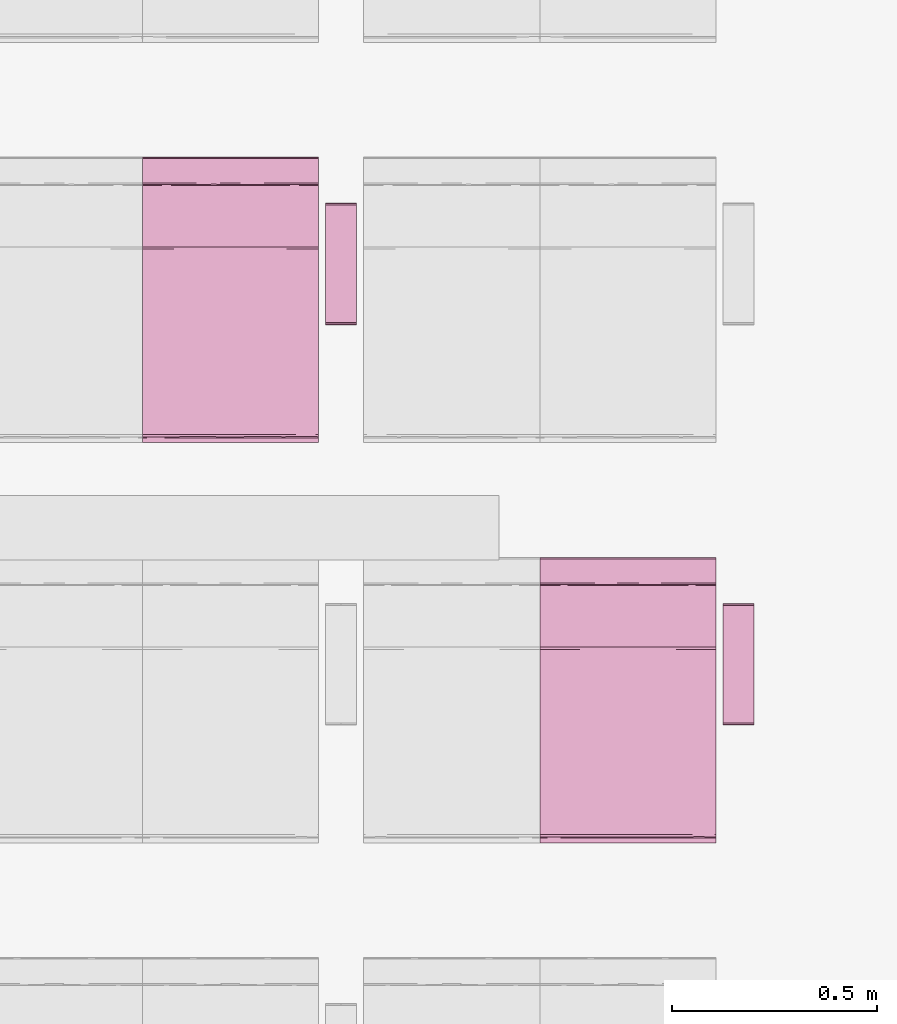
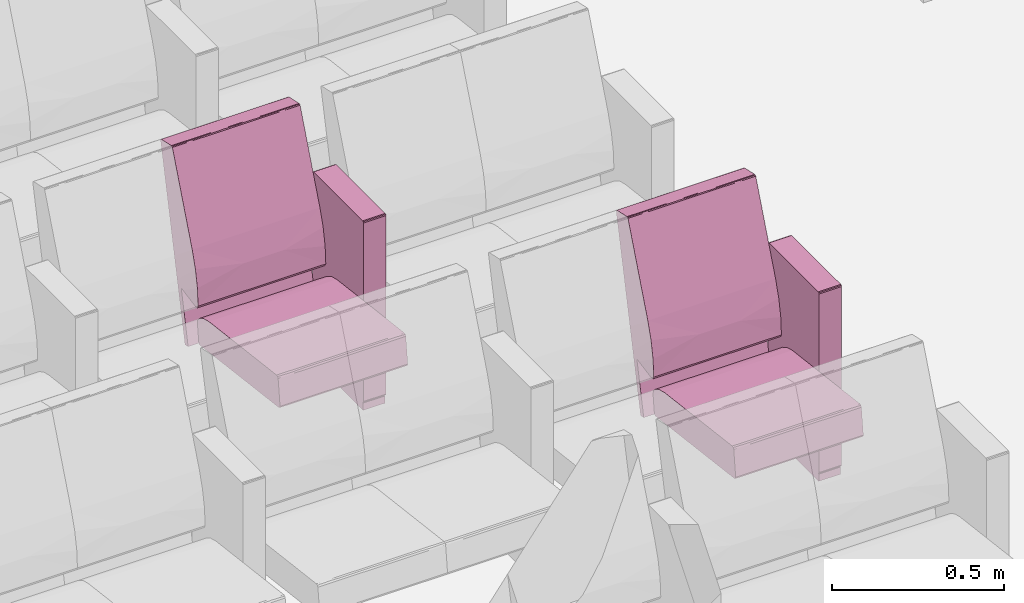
# One storey, part 110 of 155: 2 furnishings.
"""IFC2X3 building model written with IfcOpenShell, lengths in metres."""

from ifc_helpers import new_model, entity, si_unit, converted_unit, derived_unit, direction, frame, origin, place, context, subcontext, project, spatial, faceted_brep, source, transform, mapped, material, material_list, type_object, type_shapes, element, save


model = new_model("IFC2X3")

# Units and contexts
model_context = context("Model", 3, precision=1e-05, world=origin(), true_north=direction((6.12303176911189e-17, 1.0)))
body_context = subcontext(model_context, "Body", "Model", "MODEL_VIEW")
ifc_project = project(units=[si_unit("LENGTHUNIT", "METRE"), si_unit("AREAUNIT", "SQUARE_METRE"), si_unit("VOLUMEUNIT", "CUBIC_METRE"), converted_unit("PLANEANGLEUNIT", "DEGREE", entity("IfcRatioMeasure", 0.0174532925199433), si_unit("PLANEANGLEUNIT", "RADIAN"), dimensions=[0, 0, 0, 0, 0, 0, 0]), si_unit("MASSUNIT", "GRAM", prefix="KILO"), derived_unit("MASSDENSITYUNIT", [(si_unit("MASSUNIT", "GRAM", prefix="KILO"), 1), (si_unit("LENGTHUNIT", "METRE"), -3)]), si_unit("TIMEUNIT", "SECOND"), si_unit("FREQUENCYUNIT", "HERTZ"), si_unit("THERMODYNAMICTEMPERATUREUNIT", "DEGREE_CELSIUS"), derived_unit("THERMALTRANSMITTANCEUNIT", [(si_unit("MASSUNIT", "GRAM", prefix="KILO"), 1), (si_unit("THERMODYNAMICTEMPERATUREUNIT", "KELVIN"), -1), (si_unit("TIMEUNIT", "SECOND"), -3)]), derived_unit("VOLUMETRICFLOWRATEUNIT", [(si_unit("LENGTHUNIT", "METRE"), 3), (si_unit("TIMEUNIT", "SECOND"), -1)]), si_unit("ELECTRICCURRENTUNIT", "AMPERE"), si_unit("ELECTRICVOLTAGEUNIT", "VOLT"), si_unit("POWERUNIT", "WATT"), si_unit("FORCEUNIT", "NEWTON", prefix="KILO"), si_unit("ILLUMINANCEUNIT", "LUX"), si_unit("LUMINOUSFLUXUNIT", "LUMEN"), si_unit("LUMINOUSINTENSITYUNIT", "CANDELA"), derived_unit("USERDEFINED", [(si_unit("MASSUNIT", "GRAM", prefix="KILO"), -1), (si_unit("LENGTHUNIT", "METRE"), -2), (si_unit("TIMEUNIT", "SECOND"), 3), (si_unit("LUMINOUSFLUXUNIT", "LUMEN"), 1)]), derived_unit("LINEARVELOCITYUNIT", [(si_unit("LENGTHUNIT", "METRE"), 1), (si_unit("TIMEUNIT", "SECOND"), -1)]), si_unit("PRESSUREUNIT", "PASCAL"), derived_unit("USERDEFINED", [(si_unit("LENGTHUNIT", "METRE"), -2), (si_unit("MASSUNIT", "GRAM", prefix="KILO"), 1), (si_unit("TIMEUNIT", "SECOND"), -2)])], contexts=[model_context])

# Site, building, storey, space
site_placement = place(None, frame((26.9889013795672, -17.5624287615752, 0.0)))
site = spatial("IfcSite", under=ifc_project, at=site_placement, Name="Default", CompositionType="ELEMENT")
building_placement = place(site_placement, origin())
building = spatial("IfcBuilding", under=site, at=building_placement, Name="C. C. L. Monsenhor Antônio Sampaio", CompositionType="ELEMENT")
storey_placement = place(building_placement, frame((0.0, 0.0, 1.19999999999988)))
storey = spatial("IfcBuildingStorey", under=building, at=storey_placement, Name="Nível 1.2", CompositionType="ELEMENT", Elevation=1.19999999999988)
space_placement = place(storey_placement, origin())
space = spatial("IfcSpace", under=storey, at=space_placement, Name="94", CompositionType="ELEMENT", InteriorOrExteriorSpace="INTERNAL")

# Furnishings
ifc_material_1 = material(Name="V9 - V9 - Ecopelle_672_658")
ifc_material_2 = material(Name="V9 - V9 - RAL_9006_Grigio")
ifc_material_list_1 = material_list([ifc_material_1, ifc_material_2])
ifc_material_list_2 = material_list([ifc_material_1, ifc_material_2])
furniture_type = type_object("IfcFurnitureType", Name="Cadeira auditório", material=ifc_material_list_2)
shared_shape = source(origin(), body_context, "Body", "Brep", [
    faceted_brep([(0.405536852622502, -0.1075, 0.339809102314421), (0.410560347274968, -0.131924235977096, 0.34246450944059), (0.405536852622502, -0.156348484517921, 0.339809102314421), (0.41079981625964, -0.0179166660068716, 0.342749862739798), (0.410597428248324, -0.084060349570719, 0.342506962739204), (0.405536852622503, -0.0537499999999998, 0.339809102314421), (0.410248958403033, -0.173608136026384, 0.342130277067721), (0.405536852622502, -0.215, 0.339809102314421), (0.412515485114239, -0.143333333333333, 0.348529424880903), (0.412515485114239, -0.185674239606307, 0.348529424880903), (0.405536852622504, 0.1075, 0.33980910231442), (0.405536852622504, 0.156348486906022, 0.33980910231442), (0.410560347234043, 0.131924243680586, 0.342464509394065), (0.405536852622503, 0.0, 0.33980910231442), (0.411170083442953, 0.0341365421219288, 0.343251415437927), (0.41251548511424, 0.0, 0.348529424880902), (0.412515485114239, -0.0358333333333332, 0.348529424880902), (0.412515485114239, -0.0716666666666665, 0.348529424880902), (0.41251548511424, 0.143333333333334, 0.348529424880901), (0.41059742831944, 0.0840603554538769, 0.342506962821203), (0.405536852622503, 0.0537500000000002, 0.33980910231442), (0.410248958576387, 0.173608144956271, 0.342130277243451), (0.410799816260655, 0.215, 0.342749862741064), (0.412515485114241, 0.185674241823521, 0.348529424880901), (0.412515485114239, -0.215, 0.348529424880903), (0.410799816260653, -0.215, 0.342749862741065), (0.412515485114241, 0.215, 0.348529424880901), (0.41251548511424, 0.0716666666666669, 0.348529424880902), (0.405536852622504, 0.215, 0.33980910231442), (-0.0557900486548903, -0.215, 0.28268145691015), (-0.0557900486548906, -0.1881249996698, 0.282681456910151), (-0.0557900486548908, -0.161250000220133, 0.282681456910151), (-0.055790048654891, -0.134374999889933, 0.282681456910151), (-0.0557900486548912, -0.107499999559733, 0.282681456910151), (-0.0557900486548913, -0.0806250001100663, 0.282681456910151), (-0.0557900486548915, -0.0537499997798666, 0.282681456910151), (-0.0557900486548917, -0.0268749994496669, 0.282681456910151), (-0.0557900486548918, 0.0, 0.28268145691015), (-0.0557900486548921, 0.0268750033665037, 0.282681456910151), (-0.0557900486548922, 0.0537499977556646, 0.282681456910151), (-0.0557900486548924, 0.0806249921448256, 0.282681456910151), (-0.0557900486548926, 0.107499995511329, 0.282681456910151), (-0.0557900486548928, 0.138065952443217, 0.282681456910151), (-0.055790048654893, 0.168631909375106, 0.282681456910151), (-0.0557900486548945, 0.215, 0.28268145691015), (-0.0594787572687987, -0.0179017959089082, 0.283700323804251), (-0.0613666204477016, 0.0, 0.287029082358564), (-0.0594787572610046, 0.0152829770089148, 0.283700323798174), (-0.0594787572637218, -0.215, 0.283700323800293), (-0.0613666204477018, -0.215, 0.287029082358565), (-0.0613666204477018, -0.191815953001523, 0.287029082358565), (-0.0613666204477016, -0.030565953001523, 0.287029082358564), (-0.0593340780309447, -0.0671874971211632, 0.283591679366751), (-0.0593337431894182, 0.184174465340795, 0.283591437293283), (-0.0594787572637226, 0.215, 0.283700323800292), (-0.0593023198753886, 0.0940625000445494, 0.283568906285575), (-0.0613666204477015, 0.0611319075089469, 0.287029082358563), (-0.0613666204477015, 0.0916978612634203, 0.287029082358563), (-0.0613666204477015, 0.122263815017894, 0.287029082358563), (-0.0597338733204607, -0.147039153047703, 0.283913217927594), (-0.0613666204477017, -0.122263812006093, 0.287029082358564), (-0.059382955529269, -0.118123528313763, 0.28362747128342), (-0.0592501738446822, -0.180223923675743, 0.283532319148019), (-0.0613666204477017, -0.168631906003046, 0.287029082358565), (-0.0588783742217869, -0.0926899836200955, 0.283298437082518), (-0.0613666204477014, 0.168631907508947, 0.287029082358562), (-0.0613666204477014, 0.215, 0.287029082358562), (-0.0592576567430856, 0.123736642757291, 0.283537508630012), (-0.0594787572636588, 0.153348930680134, 0.283700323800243), (-0.0613666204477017, -0.0916978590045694, 0.287029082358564), (-0.0613666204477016, 0.0305659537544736, 0.287029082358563), (-0.059645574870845, 0.045848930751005, 0.283836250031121), (-0.0613666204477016, -0.0611319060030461, 0.287029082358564), (-0.0693403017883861, 0.143333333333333, 0.351419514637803), (-0.069340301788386, 0.215, 0.351419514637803), (-0.0693403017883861, -0.215, 0.351419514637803), (-0.0693403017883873, -0.143333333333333, 0.351419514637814), (-0.069340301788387, -0.0716666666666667, 0.351419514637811), (-0.0693403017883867, 0.0, 0.351419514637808), (-0.0693403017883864, 0.0716666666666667, 0.351419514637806), (-0.0653387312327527, -0.0126787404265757, 0.368680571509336), (-0.0645543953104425, -0.112272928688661, 0.369803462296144), (-0.0597085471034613, 0.0, 0.37476954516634), (-0.0655136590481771, 0.104400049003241, 0.368411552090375), (-0.0681665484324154, 0.0888707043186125, 0.36292533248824), (-0.0694879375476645, -0.0590582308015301, 0.356377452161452), (-0.0695056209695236, 0.125492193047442, 0.356093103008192), (-0.0597085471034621, 0.110316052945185, 0.374769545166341), (-0.0676206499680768, -0.215, 0.364371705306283), (-0.0672851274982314, -0.108066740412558, 0.365148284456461), (-0.0690003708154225, -0.132942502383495, 0.359900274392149), (-0.068624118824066, -0.215, 0.356813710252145), (-0.0686241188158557, 0.214999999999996, 0.356813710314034), (-0.0694502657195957, 0.0358333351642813, 0.356863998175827), (-0.0686999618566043, -0.035833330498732, 0.36116674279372), (-0.067620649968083, 0.214999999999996, 0.364371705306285), (-0.063664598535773, 0.214999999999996, 0.369570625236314), (-0.0597085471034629, 0.214999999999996, 0.374769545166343), (-0.0597085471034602, -0.110316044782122, 0.374769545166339), (-0.0636645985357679, -0.215, 0.36957062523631), (-0.0597085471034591, -0.215, 0.374769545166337), (-0.0018793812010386, -0.215, 0.398686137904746), (-0.0324117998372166, -0.0436847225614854, 0.39063968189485), (-0.0324117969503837, -0.215, 0.390639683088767), (-0.041847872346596, 0.0856576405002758, 0.386239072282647), (-0.00187938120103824, 0.102488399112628, 0.398686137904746), (-0.00187938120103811, 0.215, 0.398686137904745), (-0.0324117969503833, 0.215, 0.390639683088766), (-0.0219042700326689, 0.0570631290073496, 0.394412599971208), (-0.00187938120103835, 0.0, 0.398686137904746), (0.392202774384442, -0.215, 0.447486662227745), (0.392202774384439, -0.156349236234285, 0.447486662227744), (0.392202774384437, -0.107499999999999, 0.447486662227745), (0.392202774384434, -0.0537499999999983, 0.447486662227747), (0.392202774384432, 0.0, 0.447486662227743), (0.392202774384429, 0.0537500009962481, 0.44748666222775), (0.392202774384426, 0.107500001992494, 0.447486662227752), (0.392202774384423, 0.156349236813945, 0.447486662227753), (0.392202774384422, 0.215, 0.447486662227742), (0.397860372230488, 0.0827732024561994, 0.446039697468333), (0.401125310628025, 0.0976984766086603, 0.440530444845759), (0.398104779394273, 0.131924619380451, 0.445856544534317), (0.397373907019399, 0.173462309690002, 0.446363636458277), (0.401125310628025, 0.156349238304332, 0.440530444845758), (0.401125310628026, 0.215000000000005, 0.440530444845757), (0.398104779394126, 0.215000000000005, 0.445856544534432), (0.397860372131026, -0.0827731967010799, 0.446039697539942), (0.398104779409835, -0.131924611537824, 0.445856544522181), (0.398104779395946, -0.0268749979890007, 0.445856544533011), (0.398104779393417, 0.0237489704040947, 0.445856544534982), (0.401125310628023, -0.0488492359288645, 0.440530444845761), (0.401125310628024, 0.0488492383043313, 0.44053044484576), (0.398774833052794, -0.173462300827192, 0.445271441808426), (0.401125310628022, -0.0976984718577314, 0.440530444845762), (0.39810477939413, -0.215, 0.445856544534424), (0.401125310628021, -0.215, 0.440530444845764), (0.401125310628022, -0.156349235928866, 0.440530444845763), (0.401125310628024, 0.0, 0.44053044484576)], [[[0, 1, 2]], [[3, 4, 5]], [[2, 6, 7]], [[8, 9, 6]], [[10, 11, 12]], [[13, 3, 5]], [[3, 14, 15]], [[1, 4, 8]], [[6, 1, 8]], [[4, 3, 16]], [[16, 17, 8, 4]], [[12, 18, 19]], [[4, 1, 0]], [[20, 14, 13]], [[21, 22, 23]], [[15, 16, 3]], [[9, 24, 25]], [[26, 23, 22]], [[7, 6, 25]], [[12, 11, 21]], [[19, 14, 20]], [[4, 0, 5]], [[14, 27, 15]], [[13, 14, 3]], [[19, 18, 27]], [[19, 10, 12]], [[18, 21, 23]], [[10, 19, 20]], [[19, 27, 14]], [[2, 1, 6]], [[21, 11, 28]], [[25, 6, 9]], [[18, 12, 21]], [[22, 21, 28]], [[28, 11, 10, 20, 13, 5, 0, 2, 7, 29, 30, 31, 32, 33, 34, 35, 36, 37, 38, 39, 40, 41, 42, 43, 44]], [[45, 46, 47]], [[48, 49, 50]], [[51, 45, 52]], [[53, 54, 44]], [[55, 56, 57, 58]], [[59, 60, 61]], [[62, 63, 59]], [[34, 64, 52]], [[53, 65, 66]], [[41, 67, 42]], [[37, 36, 35, 45, 47, 38]], [[43, 42, 68]], [[29, 48, 30]], [[59, 31, 62]], [[62, 48, 50]], [[61, 69, 64]], [[65, 53, 68]], [[50, 63, 62]], [[62, 30, 48]], [[55, 58, 67]], [[32, 31, 59]], [[46, 70, 47]], [[65, 68, 58]], [[55, 40, 71]], [[70, 56, 71]], [[61, 33, 32]], [[59, 63, 60]], [[39, 38, 71, 40]], [[47, 71, 38]], [[51, 46, 45]], [[70, 71, 47]], [[71, 56, 55]], [[40, 55, 41]], [[67, 68, 42]], [[43, 68, 53]], [[43, 53, 44]], [[66, 54, 53]], [[68, 67, 58]], [[55, 67, 41]], [[72, 51, 52, 69]], [[62, 31, 30]], [[59, 61, 32]], [[35, 52, 45]], [[64, 34, 33]], [[34, 52, 35]], [[61, 60, 69]], [[52, 64, 69]], [[61, 64, 33]], [[73, 74, 66, 65, 58, 57, 56, 70, 46, 51, 72, 69, 60, 63, 50, 49, 75, 76, 77, 78, 79]], [[80, 81, 82]], [[83, 84, 80]], [[85, 78, 77, 76]], [[73, 79, 86]], [[80, 82, 83]], [[87, 83, 82]], [[88, 89, 90]], [[76, 75, 91]], [[92, 74, 73]], [[91, 90, 85]], [[80, 89, 81]], [[84, 93, 94]], [[84, 86, 93]], [[93, 78, 85]], [[73, 86, 92]], [[94, 93, 85]], [[95, 92, 84]], [[78, 93, 79]], [[80, 84, 94]], [[83, 96, 95]], [[94, 85, 90]], [[87, 97, 96]], [[98, 99, 100]], [[91, 85, 76]], [[94, 90, 89]], [[90, 91, 88]], [[89, 80, 94]], [[89, 99, 81]], [[89, 88, 99]], [[82, 81, 98]], [[81, 99, 98]], [[92, 86, 84]], [[93, 86, 79]], [[84, 83, 95]], [[96, 83, 87]], [[101, 102, 103]], [[104, 97, 87, 82]], [[105, 106, 107]], [[107, 108, 105]], [[109, 102, 101]], [[82, 102, 104]], [[102, 108, 104]], [[103, 102, 100]], [[97, 104, 107]], [[104, 108, 107]], [[102, 82, 98, 100]], [[105, 108, 109]], [[108, 102, 109]], [[109, 101, 110, 111, 112, 113, 114, 115, 116, 117, 118, 106, 105]], [[119, 120, 121]], [[122, 123, 124]], [[122, 125, 118]], [[126, 113, 112]], [[117, 121, 122]], [[121, 117, 116]], [[112, 111, 127]], [[113, 128, 129, 115, 114]], [[126, 130, 128]], [[129, 131, 119]], [[111, 132, 127]], [[132, 111, 110]], [[133, 126, 127]], [[123, 122, 121]], [[132, 134, 135]], [[127, 132, 136]], [[123, 121, 120]], [[127, 136, 133]], [[129, 128, 130, 137, 131]], [[112, 127, 126]], [[126, 133, 130]], [[119, 121, 116]], [[113, 126, 128]], [[119, 115, 129]], [[119, 116, 115]], [[120, 119, 131]], [[117, 122, 118]], [[124, 125, 122]], [[136, 132, 135]], [[110, 134, 132]], [[137, 130, 133, 136, 135, 24, 9, 8, 17, 16, 15, 27, 18, 23, 26, 124, 123, 120, 131]], [[44, 54, 66, 74, 92, 95, 96, 97, 107, 106, 118, 125, 124, 26, 22, 28]], [[75, 49, 48, 29, 7, 25, 24, 135, 134, 110, 101, 103, 100, 99, 88, 91]]]),
    faceted_brep([(0.119812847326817, 0.27, 0.674900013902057), (0.12334838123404, 0.259944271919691, 0.6734355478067), (0.123144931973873, 0.283972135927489, 0.673627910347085), (0.124812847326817, 0.27, 0.669900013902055), (0.119812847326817, 0.232, 0.674900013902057), (0.12334838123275, 0.232, 0.673435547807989), (0.124812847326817, 0.308, 0.669900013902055), (0.119812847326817, 0.308, 0.674900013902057), (0.124812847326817, 0.249888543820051, 0.669900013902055), (0.124812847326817, 0.232, 0.669900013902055), (0.12334838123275, 0.308, 0.673435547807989), (0.124812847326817, 0.232, 0.0349999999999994), (0.124812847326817, 0.27, 0.035), (0.124812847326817, 0.308, 0.035), (0.12334838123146, 0.25994427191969, 0.0314644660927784), (0.123540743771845, 0.283972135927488, 0.0316679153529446), (0.119812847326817, 0.27, 0.0300000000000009), (0.12334838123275, 0.232, 0.0314644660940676), (0.119812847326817, 0.308, 0.0300000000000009), (0.119812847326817, 0.249888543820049, 0.030000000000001), (0.119812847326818, 0.232, 0.030000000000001), (0.123348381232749, 0.308, 0.0314644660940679), (-0.167179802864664, 0.27, 0.0300000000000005), (-0.167179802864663, 0.308, 0.0300000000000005), (-0.167179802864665, 0.232, 0.0300000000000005), (-0.170715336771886, 0.25994427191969, 0.0314644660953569), (-0.17051188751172, 0.283972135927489, 0.0312721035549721), (-0.172179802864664, 0.27, 0.0350000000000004), (-0.170715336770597, 0.232, 0.0314644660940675), (-0.172179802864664, 0.308, 0.0350000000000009), (-0.172179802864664, 0.24988854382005, 0.0350000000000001), (-0.172179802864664, 0.232, 0.0349999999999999), (-0.170715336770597, 0.308, 0.0314644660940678), (-0.172179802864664, 0.308, 0.669900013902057), (-0.172179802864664, 0.232, 0.669900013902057), (-0.172179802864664, 0.27, 0.669900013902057), (-0.170715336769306, 0.259944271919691, 0.673435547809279), (-0.170907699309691, 0.283972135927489, 0.673232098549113), (-0.167179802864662, 0.27, 0.674900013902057), (-0.170715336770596, 0.232, 0.67343554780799), (-0.167179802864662, 0.308, 0.674900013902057), (-0.167179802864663, 0.249888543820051, 0.674900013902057), (-0.167179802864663, 0.232, 0.674900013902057), (-0.170715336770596, 0.308, 0.67343554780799)], [[[0, 1, 2]], [[3, 2, 1]], [[0, 4, 5, 1]], [[2, 3, 6]], [[0, 2, 7]], [[8, 3, 1, 5, 9]], [[7, 2, 10]], [[6, 10, 2]], [[9, 11, 12, 13, 6, 3, 8]], [[12, 14, 15]], [[16, 15, 14]], [[12, 11, 17, 14]], [[15, 16, 18]], [[12, 15, 13]], [[19, 16, 14, 17, 20]], [[13, 15, 21]], [[18, 21, 15]], [[22, 23, 18, 16, 19, 20, 24]], [[22, 25, 26]], [[27, 26, 25]], [[22, 24, 28, 25]], [[26, 27, 29]], [[22, 26, 23]], [[30, 27, 25, 28, 31]], [[23, 26, 32]], [[29, 32, 26]], [[33, 29, 27, 30, 31, 34, 35]], [[35, 36, 37]], [[38, 37, 36]], [[35, 34, 39, 36]], [[37, 38, 40]], [[35, 37, 33]], [[41, 38, 36, 39, 42]], [[33, 37, 43]], [[40, 43, 37]], [[0, 7, 40, 38, 41, 42, 4]], [[42, 39, 34, 31, 28, 24, 20, 17, 11, 9, 5, 4]], [[23, 32, 29, 33, 43, 40, 7, 10, 6, 13, 21, 18]]]),
    faceted_brep([(-0.0655618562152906, -0.215, 0.415143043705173), (-0.0744051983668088, -0.0524423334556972, 0.506888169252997), (-0.0695672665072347, -0.215, 0.476508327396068), (-0.0655618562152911, 0.0, 0.415143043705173), (-0.0744051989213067, 0.0780075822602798, 0.506888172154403), (-0.0655618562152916, 0.1075, 0.415143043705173), (-0.0655618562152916, 0.215, 0.415143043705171), (-0.0655618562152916, -0.1075, 0.415143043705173), (-0.0695672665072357, 0.215, 0.476508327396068), (-0.0811110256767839, 0.215, 0.536911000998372), (-0.0811110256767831, -0.215, 0.536911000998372), (-0.100016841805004, 0.0, 0.595428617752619), (-0.100016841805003, -0.215, 0.595428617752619), (-0.100016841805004, 0.215, 0.595428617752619), (-0.0792851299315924, -0.0716666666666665, 0.404772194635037), (-0.0792851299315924, 0.0, 0.404772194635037), (-0.0698317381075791, -0.0358333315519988, 0.406528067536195), (-0.0698317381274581, 0.215, 0.406528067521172), (-0.0792851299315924, 0.143333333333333, 0.404772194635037), (-0.0792851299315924, 0.215, 0.404772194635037), (-0.0698317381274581, -0.215, 0.406528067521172), (-0.0792851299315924, -0.215, 0.404772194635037), (-0.0792851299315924, -0.143333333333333, 0.404772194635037), (-0.0694171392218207, -0.140338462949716, 0.406857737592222), (-0.0708115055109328, 0.0356393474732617, 0.405868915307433), (-0.0703502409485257, 0.107500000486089, 0.406159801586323), (-0.0792851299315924, 0.0716666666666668, 0.404772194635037), (-0.163837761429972, 0.215, 0.420611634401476), (-0.163837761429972, -0.215, 0.420611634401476), (-0.123612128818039, -0.215, 0.235917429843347), (-0.123612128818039, 0.215, 0.235917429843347), (-0.142059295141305, -0.215, 0.231899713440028), (-0.142059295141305, 0.215, 0.231899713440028), (-0.235388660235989, -0.215, 0.652619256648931), (-0.235388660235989, 0.215, 0.652619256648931), (-0.28428001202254, 0.0, 0.873004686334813), (-0.284280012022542, 0.0268749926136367, 0.873004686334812), (-0.284280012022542, 0.0537499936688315, 0.873004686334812), (-0.284280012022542, 0.0806249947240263, 0.873004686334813), (-0.284280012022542, 0.107499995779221, 0.873004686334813), (-0.284280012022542, 0.134374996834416, 0.873004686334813), (-0.284280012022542, 0.161249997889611, 0.873004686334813), (-0.284280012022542, 0.191295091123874, 0.873004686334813), (-0.28428001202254, 0.215, 0.873004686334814), (-0.284280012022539, -0.215, 0.873004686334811), (-0.28428001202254, -0.191295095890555, 0.873004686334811), (-0.284280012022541, -0.161249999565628, 0.873004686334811), (-0.284280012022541, -0.134374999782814, 0.873004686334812), (-0.284280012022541, -0.1075, 0.873004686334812), (-0.284280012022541, -0.0806250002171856, 0.873004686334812), (-0.284280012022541, -0.0537500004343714, 0.873004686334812), (-0.284280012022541, -0.0268749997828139, 0.873004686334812), (-0.283504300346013, -0.0569644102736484, 0.877068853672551), (-0.283746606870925, -0.0872244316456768, 0.876674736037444), (-0.283641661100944, 0.12093750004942, 0.876855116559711), (-0.283567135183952, 0.15546176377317, 0.876973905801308), (-0.28330409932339, -0.185293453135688, 0.877344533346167), (-0.283567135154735, -0.155461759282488, 0.876973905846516), (-0.280514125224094, 0.0, 0.879190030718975), (-0.280514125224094, 0.0358333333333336, 0.879190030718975), (-0.283641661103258, 0.0136463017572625, 0.876855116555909), (-0.283641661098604, -0.0179166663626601, 0.876855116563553), (-0.280514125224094, -0.0358333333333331, 0.879190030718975), (-0.280514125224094, 0.1075, 0.879190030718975), (-0.280514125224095, 0.143333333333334, 0.879190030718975), (-0.283746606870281, 0.0872244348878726, 0.876674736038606), (-0.280514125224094, 0.071666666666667, 0.879190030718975), (-0.280514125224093, -0.1075, 0.879190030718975), (-0.280514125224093, -0.0716666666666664, 0.879190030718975), (-0.280514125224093, -0.143333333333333, 0.879190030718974), (-0.283641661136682, -0.120937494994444, 0.876855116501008), (-0.283641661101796, -0.215, 0.876855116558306), (-0.283641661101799, 0.215, 0.876855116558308), (-0.280514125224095, 0.167590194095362, 0.879190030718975), (-0.283304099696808, 0.18529345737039, 0.877344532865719), (-0.280514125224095, 0.215, 0.879190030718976), (-0.280514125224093, -0.167590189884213, 0.879190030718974), (-0.280514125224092, -0.215, 0.879190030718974), (-0.283504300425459, 0.0569644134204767, 0.8770688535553), (-0.221112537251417, -0.215, 0.892176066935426), (-0.221112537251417, -0.19181594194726, 0.892176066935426), (-0.221112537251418, -0.16124999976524, 0.892176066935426), (-0.221112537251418, -0.13437499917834, 0.892176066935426), (-0.221112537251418, -0.10749999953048, 0.892176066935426), (-0.221112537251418, -0.08062499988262, 0.892176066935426), (-0.221112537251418, -0.0537500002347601, 0.892176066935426), (-0.221112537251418, -0.0268750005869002, 0.892176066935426), (-0.221112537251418, 0.0, 0.892176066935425), (-0.221112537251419, 0.0268750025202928, 0.892176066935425), (-0.221112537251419, 0.053749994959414, 0.892176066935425), (-0.221112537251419, 0.0806249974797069, 0.892176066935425), (-0.221112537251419, 0.1075, 0.892176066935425), (-0.221112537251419, 0.134375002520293, 0.892176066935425), (-0.221112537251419, 0.161250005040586, 0.892176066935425), (-0.221112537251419, 0.191815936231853, 0.892176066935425), (-0.221112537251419, 0.215, 0.892176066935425), (-0.217722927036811, -0.0162353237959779, 0.891719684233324), (-0.215419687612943, -0.0358333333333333, 0.889191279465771), (-0.215419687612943, 0.0, 0.889191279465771), (-0.217722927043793, 0.0134375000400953, 0.891719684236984), (-0.217722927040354, 0.120937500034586, 0.89171968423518), (-0.217722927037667, 0.0912646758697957, 0.891719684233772), (-0.215419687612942, 0.0716666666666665, 0.88919127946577), (-0.215419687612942, 0.1075, 0.88919127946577), (-0.215419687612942, 0.143333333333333, 0.88919127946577), (-0.217722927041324, 0.215, 0.891719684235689), (-0.217722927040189, 0.182482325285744, 0.891719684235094), (-0.215419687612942, 0.168631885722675, 0.889191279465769), (-0.215419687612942, 0.191815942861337, 0.889191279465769), (-0.215419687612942, 0.215, 0.889191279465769), (-0.217722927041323, -0.215, 0.89171968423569), (-0.215419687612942, -0.215, 0.889191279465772), (-0.215419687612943, -0.191815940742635, 0.889191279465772), (-0.217722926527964, -0.190103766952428, 0.891719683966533), (-0.2179983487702, 0.039082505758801, 0.891853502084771), (-0.217816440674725, 0.0647800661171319, 0.891767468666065), (-0.217558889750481, 0.155982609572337, 0.891629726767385), (-0.217722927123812, -0.120937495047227, 0.891719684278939), (-0.217558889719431, -0.15598260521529, 0.891629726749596), (-0.215419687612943, -0.143333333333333, 0.889191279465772), (-0.215419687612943, -0.16863188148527, 0.889191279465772), (-0.215419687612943, -0.0716666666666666, 0.889191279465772), (-0.217816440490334, -0.0647800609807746, 0.891767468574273), (-0.217722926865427, -0.0912646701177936, 0.891719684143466), (-0.215419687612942, 0.0358333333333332, 0.889191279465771), (-0.215419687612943, -0.1075, 0.889191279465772), (-0.218257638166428, -0.0404491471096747, 0.891961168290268)], [[[0, 1, 2]], [[3, 4, 1]], [[4, 3, 5, 6]], [[1, 0, 7, 3]], [[8, 4, 6]], [[9, 4, 8]], [[1, 10, 2]], [[1, 11, 12]], [[9, 13, 4]], [[13, 11, 4]], [[10, 1, 12]], [[11, 1, 4]], [[14, 15, 16]], [[17, 18, 19]], [[20, 21, 22]], [[20, 23, 0]], [[3, 7, 16]], [[15, 24, 16]], [[24, 25, 5]], [[22, 23, 20]], [[7, 23, 16]], [[6, 5, 17]], [[16, 24, 3]], [[16, 23, 14]], [[23, 22, 14]], [[18, 25, 26]], [[18, 17, 25]], [[26, 24, 15]], [[7, 0, 23]], [[5, 25, 17]], [[25, 24, 26]], [[3, 24, 5]], [[27, 19, 18, 26, 15, 14, 22, 21, 28]], [[27, 28, 29, 30]], [[31, 32, 30, 29]], [[33, 34, 32, 31]], [[35, 36, 37, 38, 39, 40, 41, 42, 43, 34, 33, 44, 45, 46, 47, 48, 49, 50, 51]], [[52, 49, 53]], [[54, 55, 40]], [[46, 56, 57]], [[58, 59, 60, 61, 62]], [[54, 63, 64]], [[65, 66, 63]], [[67, 68, 53]], [[57, 69, 70]], [[45, 56, 46]], [[39, 54, 40]], [[45, 44, 71]], [[72, 43, 42]], [[35, 51, 61, 60, 36]], [[55, 73, 74]], [[39, 65, 54]], [[74, 73, 75]], [[67, 53, 70]], [[74, 42, 41]], [[64, 73, 55]], [[56, 76, 57]], [[74, 72, 42]], [[76, 56, 77]], [[56, 71, 77]], [[57, 76, 69]], [[48, 70, 53]], [[70, 48, 47]], [[60, 78, 36]], [[63, 54, 65]], [[71, 56, 45]], [[41, 55, 74]], [[72, 74, 75]], [[57, 70, 47]], [[47, 46, 57]], [[69, 67, 70]], [[50, 49, 52, 51]], [[52, 62, 61]], [[61, 51, 52]], [[55, 41, 40]], [[55, 54, 64]], [[66, 65, 78]], [[65, 38, 78]], [[52, 53, 68]], [[37, 36, 78, 38]], [[78, 59, 66]], [[59, 78, 60]], [[49, 48, 53]], [[65, 39, 38]], [[52, 68, 62]], [[79, 80, 81, 82, 83, 84, 85, 86, 87, 88, 89, 90, 91, 92, 93, 94, 95, 75, 73, 64, 63, 66, 59, 58, 62, 68, 67, 69, 76, 77]], [[96, 97, 98, 99]], [[100, 101, 102, 103, 104]], [[105, 106, 107, 108, 109]], [[110, 111, 112]], [[80, 110, 113]], [[89, 114, 115]], [[92, 116, 93]], [[94, 93, 106, 105, 95]], [[80, 79, 110]], [[92, 91, 90, 101, 100]], [[99, 88, 87, 86, 96]], [[104, 107, 116]], [[117, 83, 82]], [[117, 118, 119]], [[112, 120, 113]], [[118, 120, 119]], [[118, 81, 113]], [[116, 107, 106]], [[101, 90, 115]], [[121, 122, 123]], [[104, 116, 100]], [[110, 112, 113]], [[114, 99, 124]], [[92, 100, 116]], [[117, 125, 123]], [[82, 81, 118]], [[118, 117, 82]], [[83, 117, 123]], [[125, 117, 119]], [[102, 101, 115]], [[84, 83, 123]], [[123, 125, 121]], [[85, 84, 122]], [[89, 115, 90]], [[96, 86, 126]], [[124, 102, 115]], [[88, 99, 114]], [[99, 98, 124]], [[122, 121, 97]], [[126, 122, 97]], [[88, 114, 89]], [[115, 114, 124]], [[123, 122, 84]], [[126, 85, 122]], [[85, 126, 86]], [[96, 126, 97]], [[116, 106, 93]], [[80, 113, 81]], [[118, 113, 120]], [[12, 11, 13, 109, 108, 107, 104, 103, 102, 124, 98, 97, 121, 125, 119, 120, 112, 111]], [[30, 32, 34, 43, 72, 75, 95, 105, 109, 13, 9, 8, 6, 17, 19, 27]], [[77, 71, 44, 33, 31, 29, 28, 21, 20, 0, 2, 10, 12, 111, 110, 79]]]),
    faceted_brep([(0.120312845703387, 0.2335, 0.0), (0.120312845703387, 0.3065, 0.0), (0.120312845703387, 0.3065, 0.0260000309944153), (0.120312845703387, 0.27, 0.0260000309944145), (0.120312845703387, 0.249500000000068, 0.0260000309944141), (0.120312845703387, 0.2335, 0.0260000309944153), (-0.167687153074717, 0.2335, 0.0), (-0.167687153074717, 0.3065, 0.0), (-0.167687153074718, 0.3065, 0.0260000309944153), (-0.167687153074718, 0.2335, 0.0260000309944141), (-0.167687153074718, 0.27, 0.0260000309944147), (-0.163702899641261, 0.233500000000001, 0.0300000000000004), (-0.166521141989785, 0.257382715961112, 0.0288228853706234), (-0.166521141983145, 0.233500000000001, 0.0288228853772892), (-0.166521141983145, 0.3065, 0.0288228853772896), (-0.16652114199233, 0.279986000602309, 0.0288228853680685), (-0.163702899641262, 0.3065, 0.0300000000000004), (-0.163702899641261, 0.27, 0.0300000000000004), (0.116297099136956, 0.2335, 0.0300000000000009), (0.116297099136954, 0.270000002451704, 0.0300000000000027), (0.116297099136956, 0.3065, 0.0300000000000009), (0.119033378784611, 0.283124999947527, 0.0289323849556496), (0.119135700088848, 0.259750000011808, 0.0288340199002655), (0.1191357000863, 0.2335, 0.0288340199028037), (0.119135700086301, 0.3065, 0.0288340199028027)], [[[0, 1, 2, 3, 4, 5]], [[6, 7, 1, 0]], [[8, 7, 6, 9, 10]], [[11, 12, 13]], [[14, 15, 16]], [[17, 16, 15, 12, 11]], [[13, 12, 10, 9]], [[8, 15, 14]], [[12, 15, 8, 10]], [[16, 17, 11, 18, 19, 20]], [[3, 2, 21]], [[22, 19, 18, 23]], [[22, 23, 5, 4, 3]], [[20, 21, 24]], [[22, 3, 21]], [[19, 21, 20]], [[2, 24, 21]], [[19, 22, 21]], [[20, 24, 2, 1, 7, 8, 14, 16]], [[18, 11, 13, 9, 6, 0, 5, 23]]]),
])
type_shapes(furniture_type, [shared_shape])
furnishing_1_placement = place(space_placement, frame((-11.0559492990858, -13.3554126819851, 0.0), z_axis=(0.0, 0.0, 1.0), x_axis=(0.0, -1.0, 0.0)))
element("IfcFurnishingElement", 1, at=furnishing_1_placement, inside=space, type_object=furniture_type, material=ifc_material_list_1, Name="cadeira auditório pcd:Cadeira auditório", ObjectType="Cadeira auditório", context=body_context, shape_type="MappedRepresentation", body=[
    mapped(shared_shape, transform((0.0, 0.0, 0.0), scale=1.0)),
])
ifc_material_list_3 = material_list([ifc_material_1, ifc_material_2])
furnishing_2_placement = place(space_placement, frame((-12.0259492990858, -12.3788058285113, 0.0), z_axis=(0.0, 0.0, 1.0), x_axis=(0.0, -1.0, 0.0)))
element("IfcFurnishingElement", 2, at=furnishing_2_placement, inside=space, type_object=furniture_type, material=ifc_material_list_3, Name="cadeira auditório pcd:Cadeira auditório", ObjectType="Cadeira auditório", context=body_context, shape_type="MappedRepresentation", body=[
    mapped(shared_shape, transform((0.0, 0.0, 0.0), scale=1.0)),
])

save(model, "model.ifc")
